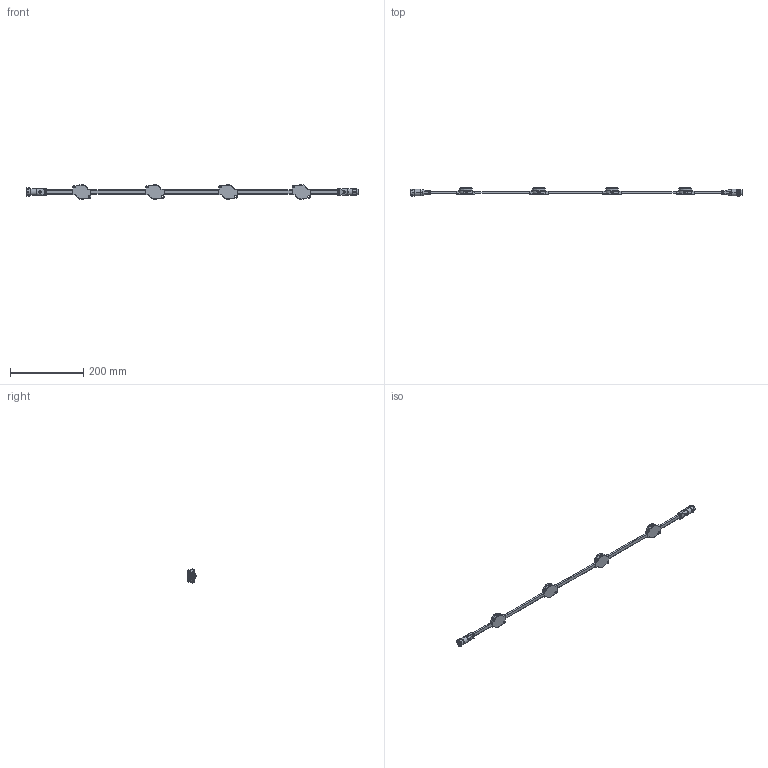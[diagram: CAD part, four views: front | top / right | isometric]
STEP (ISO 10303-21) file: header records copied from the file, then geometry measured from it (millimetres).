
FILE_DESCRIPTION (( 'STEP AP214' ), '1' );
FILE_NAME ('DIGI MODULE ES3 - 5pin.STEP', '2026-01-05T08:59:05', ( '' ), ( '' ), 'SwSTEP 2.0', 'SolidWorks 2025', '' );
FILE_SCHEMA (( 'AUTOMOTIVE_DESIGN' ));
Length unit declared in the file: millimetre
Products named in the file (6): DiGi Module ES3 - Cover; DiGi Module ES3 - Body; M16 5p Flat mold - Male; M16 5p Flat mold - Female; DIGI MODULE ES3 - 5pin; Part1^DIGI MODULE ES3
Assembly tree (11 placements, depth 2):
  DIGI MODULE ES3 - 5pin
    DiGi Module ES3 - Body  x4
    DiGi Module ES3 - Cover  x4
    Part1^DIGI MODULE ES3
    M16 5p Flat mold - Female
    M16 5p Flat mold - Male
Bounding box: 907.71 x 22.14 x 39.6 mm (x, y, z)
Volume: 118890.6 mm3; surface area: 63422 mm2
Topology: 31 solids, 31 shells, 1539 faces, 3766 edges, 2288 vertices
Faces by surface type: plane 529, cylinder 497, bspline 320, cone 112, torus 43, sphere 38
Full cylindrical faces by diameter (mm): 9.2 x1, 11.1 x1, 11.8 x1, 14.25 x1, 14.8 x1, 15.2 x1, 27.3 x4, 31.35 x8
Entity records: 70375 total; most frequent: CARTESIAN_POINT 37249, ORIENTED_EDGE 4946, DIRECTION 3720, EDGE_CURVE 2473, VERTEX_POINT 1516, AXIS2_PLACEMENT_3D 1412, EDGE_LOOP 1145, FACE_OUTER_BOUND 1071
